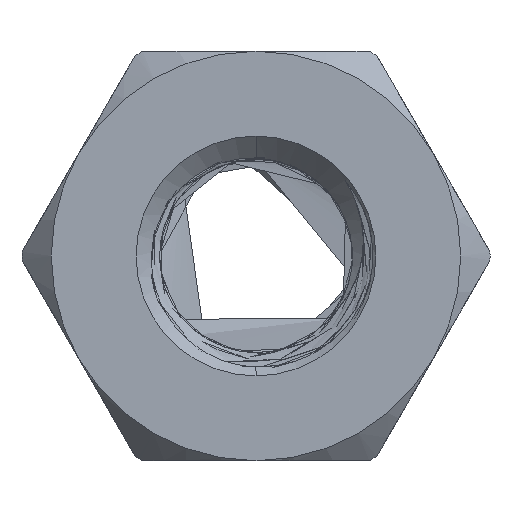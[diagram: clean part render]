
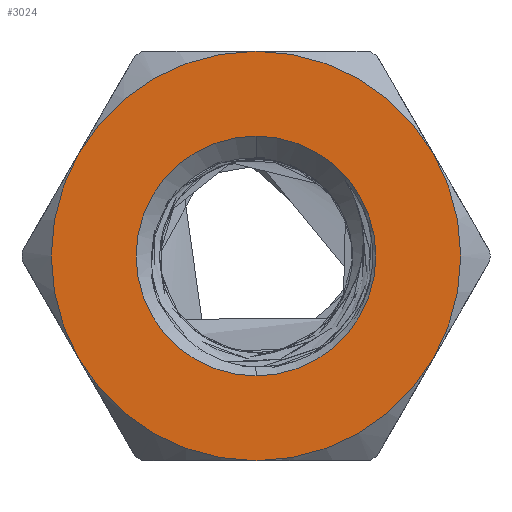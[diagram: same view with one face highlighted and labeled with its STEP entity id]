
A CAD part, front view. The second image highlights one B-rep face of the part: STEP entity #3024.
In plain terms, the highlighted planar face has unit normal (0, -1, 0).
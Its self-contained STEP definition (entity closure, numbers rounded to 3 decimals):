
#155 = CARTESIAN_POINT ( 'NONE',  ( 0., 0., 3.5 ) ) ;
#220 = VERTEX_POINT ( 'NONE', #1790 ) ;
#278 = EDGE_CURVE ( 'NONE', #1597, #5199, #3502, .T. ) ;
#397 = AXIS2_PLACEMENT_3D ( 'NONE', #2771, #2804, #3827 ) ;
#401 = PLANE ( 'NONE',  #2156 ) ;
#423 = ORIENTED_EDGE ( 'NONE', *, *, #5467, .F. ) ;
#542 = CARTESIAN_POINT ( 'NONE',  ( -3.031, 0., 1.75 ) ) ;
#595 = EDGE_LOOP ( 'NONE', ( #4285, #423 ) ) ;
#609 = CIRCLE ( 'NONE', #1894, 3.5 ) ;
#683 = ORIENTED_EDGE ( 'NONE', *, *, #2223, .T. ) ;
#770 = CARTESIAN_POINT ( 'NONE',  ( 3.031, 0., 1.75 ) ) ;
#782 = FACE_OUTER_BOUND ( 'NONE', #991, .T. ) ;
#894 = DIRECTION ( 'NONE',  ( 0., -1., 0. ) ) ;
#970 = DIRECTION ( 'NONE',  ( 0., -1., 0. ) ) ;
#991 = EDGE_LOOP ( 'NONE', ( #1484, #4065, #4532, #3758, #4395, #683 ) ) ;
#1196 = FACE_BOUND ( 'NONE', #595, .T. ) ;
#1200 = CARTESIAN_POINT ( 'NONE',  ( 0., 0., 0. ) ) ;
#1256 = CIRCLE ( 'NONE', #1637, 3.5 ) ;
#1456 = DIRECTION ( 'NONE',  ( 0., -1., 0. ) ) ;
#1484 = ORIENTED_EDGE ( 'NONE', *, *, #6201, .T. ) ;
#1597 = VERTEX_POINT ( 'NONE', #2532 ) ;
#1637 = AXIS2_PLACEMENT_3D ( 'NONE', #1200, #3826, #5959 ) ;
#1722 = DIRECTION ( 'NONE',  ( 0., -1., 0. ) ) ;
#1742 = CARTESIAN_POINT ( 'NONE',  ( 0., 0., 0. ) ) ;
#1790 = CARTESIAN_POINT ( 'NONE',  ( 3.031, 0., -1.75 ) ) ;
#1854 = CARTESIAN_POINT ( 'NONE',  ( 0., 0., 0. ) ) ;
#1894 = AXIS2_PLACEMENT_3D ( 'NONE', #1854, #5097, #3999 ) ;
#2049 = AXIS2_PLACEMENT_3D ( 'NONE', #6756, #894, #5749 ) ;
#2156 = AXIS2_PLACEMENT_3D ( 'NONE', #3699, #4733, #6358 ) ;
#2223 = EDGE_CURVE ( 'NONE', #220, #3604, #609, .T. ) ;
#2338 = CARTESIAN_POINT ( 'NONE',  ( 0., 0., 0. ) ) ;
#2532 = CARTESIAN_POINT ( 'NONE',  ( -3.031, 0., -1.75 ) ) ;
#2564 = DIRECTION ( 'NONE',  ( 0., 0., 1. ) ) ;
#2660 = EDGE_CURVE ( 'NONE', #3903, #5651, #5292, .T. ) ;
#2771 = CARTESIAN_POINT ( 'NONE',  ( 0., 0., 0. ) ) ;
#2804 = DIRECTION ( 'NONE',  ( 0., -1., 0. ) ) ;
#3024 = ADVANCED_FACE ( 'NONE', ( #1196, #782 ), #401, .F. ) ;
#3133 = EDGE_CURVE ( 'NONE', #5897, #4973, #4632, .T. ) ;
#3162 = CARTESIAN_POINT ( 'NONE',  ( 0., 0., 2.05 ) ) ;
#3379 = CARTESIAN_POINT ( 'NONE',  ( 0., 0., -3.5 ) ) ;
#3502 = CIRCLE ( 'NONE', #4487, 3.5 ) ;
#3604 = VERTEX_POINT ( 'NONE', #770 ) ;
#3699 = CARTESIAN_POINT ( 'NONE',  ( 0., 0., 0. ) ) ;
#3758 = ORIENTED_EDGE ( 'NONE', *, *, #278, .T. ) ;
#3826 = DIRECTION ( 'NONE',  ( 0., -1., 0. ) ) ;
#3827 = DIRECTION ( 'NONE',  ( 0., 0., 1. ) ) ;
#3903 = VERTEX_POINT ( 'NONE', #5338 ) ;
#3999 = DIRECTION ( 'NONE',  ( 0., 0., 1. ) ) ;
#4058 = DIRECTION ( 'NONE',  ( 0., 0., -1. ) ) ;
#4065 = ORIENTED_EDGE ( 'NONE', *, *, #3133, .T. ) ;
#4285 = ORIENTED_EDGE ( 'NONE', *, *, #2660, .F. ) ;
#4395 = ORIENTED_EDGE ( 'NONE', *, *, #5073, .T. ) ;
#4487 = AXIS2_PLACEMENT_3D ( 'NONE', #1742, #6001, #6545 ) ;
#4532 = ORIENTED_EDGE ( 'NONE', *, *, #6954, .T. ) ;
#4601 = CIRCLE ( 'NONE', #397, 3.5 ) ;
#4632 = CIRCLE ( 'NONE', #6105, 3.5 ) ;
#4690 = CIRCLE ( 'NONE', #2049, 2.05 ) ;
#4714 = CARTESIAN_POINT ( 'NONE',  ( 0., 0., 0. ) ) ;
#4733 = DIRECTION ( 'NONE',  ( 0., 1., 0. ) ) ;
#4973 = VERTEX_POINT ( 'NONE', #542 ) ;
#5073 = EDGE_CURVE ( 'NONE', #5199, #220, #1256, .T. ) ;
#5097 = DIRECTION ( 'NONE',  ( 0., -1., 0. ) ) ;
#5171 = CARTESIAN_POINT ( 'NONE',  ( 0., 0., 0. ) ) ;
#5199 = VERTEX_POINT ( 'NONE', #3379 ) ;
#5292 = CIRCLE ( 'NONE', #6202, 2.05 ) ;
#5338 = CARTESIAN_POINT ( 'NONE',  ( 0., 0., -2.05 ) ) ;
#5467 = EDGE_CURVE ( 'NONE', #5651, #3903, #4690, .T. ) ;
#5632 = AXIS2_PLACEMENT_3D ( 'NONE', #4714, #970, #2564 ) ;
#5651 = VERTEX_POINT ( 'NONE', #3162 ) ;
#5749 = DIRECTION ( 'NONE',  ( 0., 0., -1. ) ) ;
#5897 = VERTEX_POINT ( 'NONE', #155 ) ;
#5959 = DIRECTION ( 'NONE',  ( 0., 0., -1. ) ) ;
#6001 = DIRECTION ( 'NONE',  ( 0., -1., 0. ) ) ;
#6103 = DIRECTION ( 'NONE',  ( 0., 0., 1. ) ) ;
#6105 = AXIS2_PLACEMENT_3D ( 'NONE', #2338, #1722, #6103 ) ;
#6201 = EDGE_CURVE ( 'NONE', #3604, #5897, #6636, .T. ) ;
#6202 = AXIS2_PLACEMENT_3D ( 'NONE', #5171, #1456, #4058 ) ;
#6358 = DIRECTION ( 'NONE',  ( 0., 0., 1. ) ) ;
#6545 = DIRECTION ( 'NONE',  ( 0., 0., 1. ) ) ;
#6636 = CIRCLE ( 'NONE', #5632, 3.5 ) ;
#6756 = CARTESIAN_POINT ( 'NONE',  ( 0., 0., 0. ) ) ;
#6954 = EDGE_CURVE ( 'NONE', #4973, #1597, #4601, .T. ) ;
